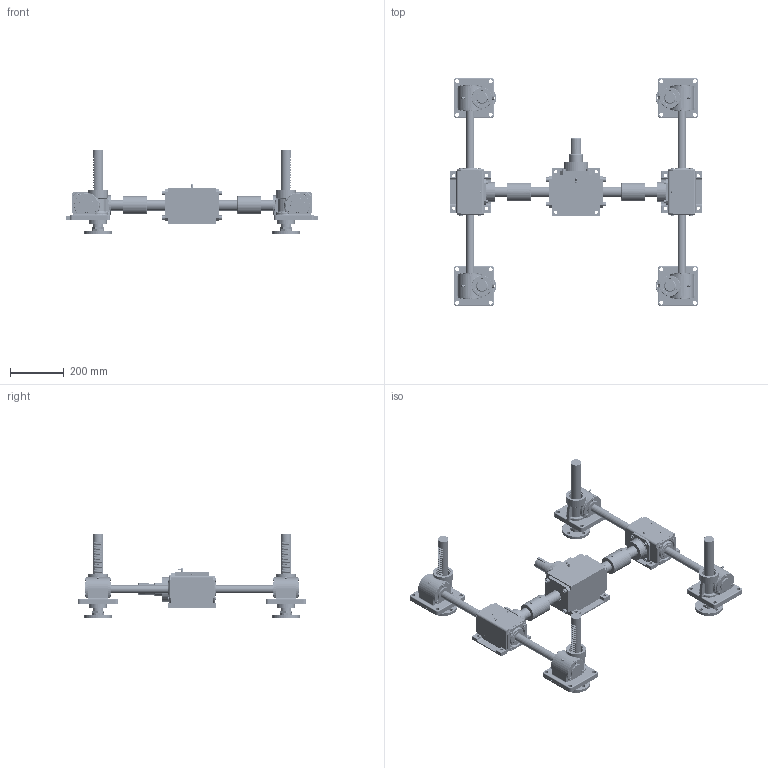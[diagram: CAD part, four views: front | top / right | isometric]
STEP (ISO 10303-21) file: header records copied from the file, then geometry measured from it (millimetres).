
FILE_DESCRIPTION(('STEP AP203'),'1');
FILE_NAME('RJ20-4SUB15-700x700-350-150ST.stp','2022-07-06T08:05:16',(' '),(' '),'Spatial InterOp 3D',' ',' ');
FILE_SCHEMA(('CONFIG_CONTROL_DESIGN'));
Length unit declared in the file: millimetre
Products named in the file (149): RJ20-4SUB15-700x700-350-150ST; ASSEM1; Flange.1-Part; Flange.1; Joint.1; Nut.1; Flange.2-Part; Flange.2; Joint.2; Nut.2; Flange.3-Part; Flange.3; Joint.3; Nut.3; Flange.4-Part; Flange.4; Joint.4; Nut.4; Body.1-Part; Nipple; Bolt; Bearing Cover Open.1(RJ20); Bearing Cover Close.1(RJ20); Gear Box.1(RJ20); RJ05-4SCJ-610X600-100ST_CAP; LABEL-B.1; SUNIL __; 파트1; Body.2-Part; Pinion Gear; Bearing Cover Open.2(RJ20); Bearing Cover Close.2(RJ20); Gear Box.2(RJ20); Body.3-Part; Bearing Cover Open.3(RJ20); Bearing Cover Close.3(RJ20); Gear Box.3(RJ20); Body.4-Part; Bearing Cover Open.4(RJ20); Bearing Cover Close.4(RJ20)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
Assembly tree (160 placements, depth 7):
  RJ20-4SUB15-700x700-350-150ST
    ASSEM1
    (unnamed)
    (unnamed)
    (unnamed)
    Flange.1-Part
      Flange.1
      Joint.1
      Nut.1
    Flange.2-Part
      Flange.2
      Joint.2
      Nut.2
    Flange.3-Part
      Flange.3
      Joint.3
      Nut.3
    Flange.4-Part
      Flange.4
      Joint.4
      Nut.4
    Body.1-Part
      Nipple
      Bolt
      Bolt
      Bolt
      Bolt
      Bolt
      Bolt
      Bearing Cover Open.1(RJ20)
      Bearing Cover Close.1(RJ20)
      Gear Box.1(RJ20)
      SUNIL __
        RJ05-4SCJ-610X600-100ST_CAP
          LABEL-B.1
        파트1
    Body.2-Part
      Nipple
      Bolt
      Bolt
      Bolt
      Bolt
      Bolt
      Bolt
      Pinion Gear
      Bearing Cover Open.2(RJ20)
      Bearing Cover Close.2(RJ20)
      Gear Box.2(RJ20)
      SUNIL __
        RJ05-4SCJ-610X600-100ST_CAP
          LABEL-B.1
        파트1
    Body.3-Part
      Nipple
      Bolt
      Bolt
      Bolt
      Bolt
      Bolt
      Bolt
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Bounding box: 942 x 850 x 315 mm (x, y, z)
Volume: 11163888 mm3; surface area: 2214081.4 mm2
Topology: 188 solids, 188 shells, 15375 faces, 42739 edges, 28079 vertices
Faces by surface type: plane 12714, cylinder 1370, cone 509, torus 444, bspline 144, extrusion 118, revolution 43, sphere 33
Full cylindrical faces by diameter (mm): 3.113 x6, 6 x38, 6.6 x7, 8 x76, 8.5 x24, 9 x24, 9.5 x1, 10 x24, 11 x36, 12 x12, 13 x24, 14 x32, 16 x12, 28 x4, 30 x12, 30.5 x4, 32 x8, 35 x2, 40 x8, 42 x2, 43 x8, 44 x12, 45 x4, 46 x8, 50 x9, 52 x9, 53 x4, 54 x4, 55 x16, 56 x2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
Entity records: 502258 total; most frequent: CARTESIAN_POINT 109289, ORIENTED_EDGE 82110, DIRECTION 74157, EDGE_CURVE 41055, VECTOR 35890, LINE 35772, VERTEX_POINT 27504, AXIS2_PLACEMENT_3D 19112
